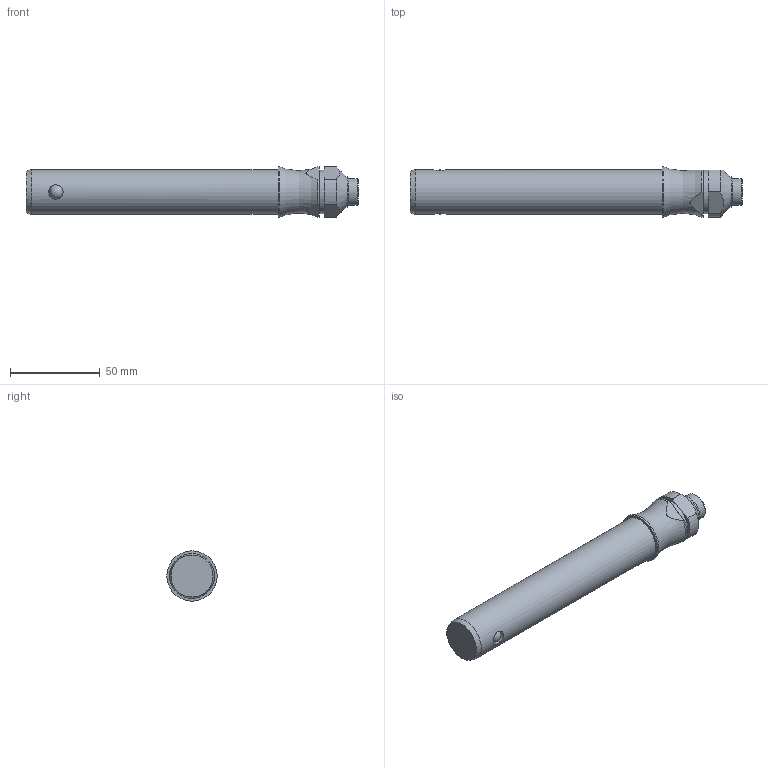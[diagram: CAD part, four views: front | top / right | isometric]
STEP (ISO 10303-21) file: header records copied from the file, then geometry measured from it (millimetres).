
FILE_DESCRIPTION( ( 'STEP AP203' ), '1' );
FILE_NAME( 'C:/Temp/Ganter_Step_05_03_2020/data/3_1/gn113_3/Stainless Steel-Ball lock pin GN 113.3-25-120 (activated).stp', '2020-03-12T08:19:13', ( 'License CC BY-ND 4.0' ), ( 'CADENAS' ), ' ', 'PARTsolutions', ' ' );
FILE_SCHEMA( ( 'CONFIG_CONTROL_DESIGN' ) );
Length unit declared in the file: millimetre
Products named in the file (1): _Stainless Steel-Ball lock pin GN 113.3-25-120 (activated)
Bounding box: 185.05 x 28 x 28 mm (x, y, z)
Volume: 88569.7 mm3; surface area: 15778.8 mm2
Topology: 1 solids, 1 shells, 31 faces, 74 edges, 46 vertices
Faces by surface type: cylinder 13, plane 11, cone 4, sphere 2, torus 1
Full cylindrical faces by diameter (mm): 8 x2, 15 x1, 17 x1, 24 x1, 25 x1, 28 x1
Entity records: 1046 total; most frequent: CARTESIAN_POINT 382, DIRECTION 134, ORIENTED_EDGE 104, AXIS2_PLACEMENT_3D 58, EDGE_CURVE 52, EDGE_LOOP 48, VERTEX_POINT 40, FACE_OUTER_BOUND 39
